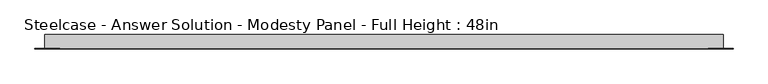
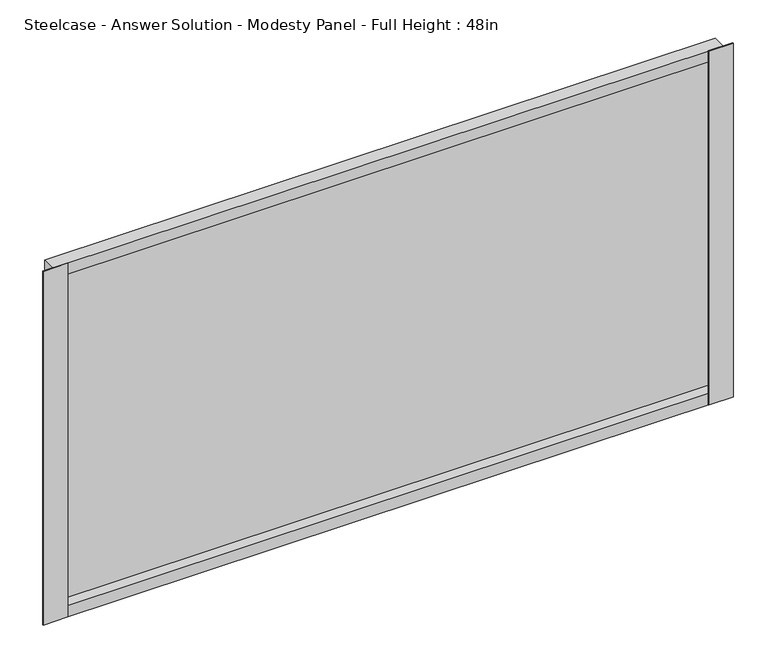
"""IFC4 building model written with IfcOpenShell, lengths in millimetres: furniture geometry, Steelcase - Answer Solution - Modesty Panel - Full Height : 48in."""

from ifc_helpers import new_model, si_unit, frame, origin, place, context, project, spatial, polyline, outline, extrude, faceted_brep, source, transform, mapped, element, save


def steelcase_answer_solution_modesty_panel_full_height_48in_719ec124(model_context):
    return source(origin(), model_context, "Body", "SolidModel", [
        extrude(outline(polyline([(1762.7400478, -14.2668826), (1762.7400478, -15.0593624), (1718.3248254, -15.0593624), (1718.3248254, -14.2668826), (1762.7400478, -14.2668826)])), frame((0.0, 0.0, 17.653), z_axis=(0.0, 0.0, 1.0), x_axis=(1.0, 0.0, 0.0)), (0.0, 0.0, 1.0), 678.18),
        extrude(outline(polyline([(556.9673392, -14.2668826), (556.9673392, -15.0593624), (512.5520826, -15.0593624), (512.5520826, -14.2668826), (556.9673392, -14.2668826)])), frame((0.0, 0.0, 17.653), z_axis=(0.0, 0.0, 1.0), x_axis=(1.0, 0.0, 0.0)), (0.0, 0.0, 1.0), 678.18),
        faceted_brep([(530.0780827, 10.9045177, 17.653), (530.0780827, -14.2668826, 17.653), (530.0780827, -14.2668826, 695.833), (530.0780827, 10.9045177, 695.833), (1745.2140827, -14.2668826, 17.653), (1745.2140827, 10.9045177, 17.653), (1745.2140827, 10.9045177, 695.833), (1745.2140827, -14.2668826, 695.833), (1744.4216165, 4.7831174, 39.243), (530.8705628, 4.7831174, 39.243), (530.8705628, -14.2668826, 39.243), (1744.4216165, -14.2668826, 39.243), (530.8705628, -14.2668826, 674.243), (1744.4216165, -14.2668826, 674.243), (530.8705628, 4.7831174, 674.243), (1744.4216165, 4.7831174, 674.243)], [[[0, 1, 2, 3]], [[4, 5, 6, 7]], [[8, 9, 10, 11]], [[0, 3, 6, 5]], [[4, 1, 0, 5]], [[2, 1, 4, 7], [10, 12, 13, 11]], [[3, 2, 7, 6]], [[14, 15, 13, 12]], [[9, 8, 15, 14]], [[12, 10, 9, 14]], [[11, 13, 15, 8]]]),
    ])


if __name__ == "__main__":
    model = new_model("IFC4")
    model_context = context("Model", 3, world=origin())
    ifc_project = project(units=[si_unit("LENGTHUNIT", "METRE", prefix="MILLI")], contexts=[model_context])
    site = spatial("IfcSite", under=ifc_project)
    building = spatial("IfcBuilding", under=site)
    placement = place(None, origin())
    steelcase_answer_solution_modesty_panel_full_height_48in_shape = steelcase_answer_solution_modesty_panel_full_height_48in_719ec124(model_context)
    element("IfcFurniture", 1, ObjectType="Steelcase - Answer Solution - Modesty Panel - Full Height : 48in", at=placement, inside=building, context=model_context, shape_type="MappedRepresentation", body=[
        mapped(steelcase_answer_solution_modesty_panel_full_height_48in_shape, transform((0.0, 0.0, 0.0), x_axis=(1.0, 0.0, 0.0), y_axis=(0.0, 1.0, 0.0), z_axis=(0.0, 0.0, 1.0))),
    ])
    save(model, "model.ifc")
